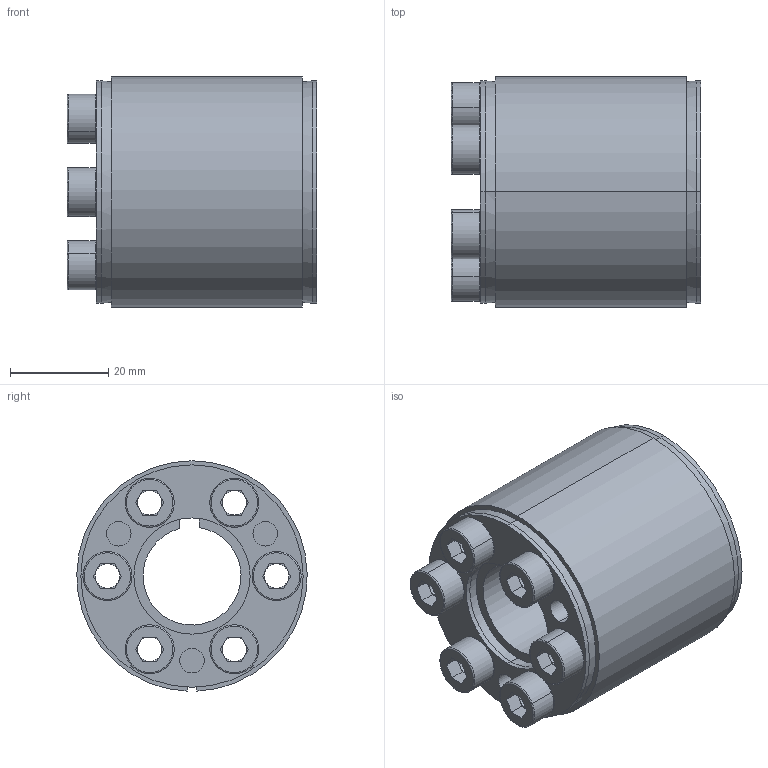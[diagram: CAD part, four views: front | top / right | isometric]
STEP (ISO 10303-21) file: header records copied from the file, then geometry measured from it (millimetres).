
FILE_DESCRIPTION (( 'STEP AP203' ), '1' );
FILE_NAME ('SAPL-D4-20-47.STEP', '2017-10-14T07:39:20', ( 'MYCOM' ), ( '' ), 'SwSTEP 2.0', 'SolidWorks 2015', '' );
FILE_SCHEMA (( 'CONFIG_CONTROL_DESIGN' ));
Length unit declared in the file: millimetre
Products named in the file (1): SAPL-D4-20-47
Bounding box: 50.98 x 46.99 x 46.98 mm (x, y, z)
Surface area: 24082.7 mm2 (no closed solid volume)
Topology: 0 solids, 11 shells, 171 faces, 483 edges, 314 vertices
Faces by surface type: plane 84, cylinder 55, torus 24, cone 8
Entity records: 5676 total; most frequent: DIRECTION 1057, CARTESIAN_POINT 1023, ORIENTED_EDGE 820, EDGE_CURVE 483, AXIS2_PLACEMENT_3D 410, VERTEX_POINT 314, CIRCLE 238, VECTOR 237
